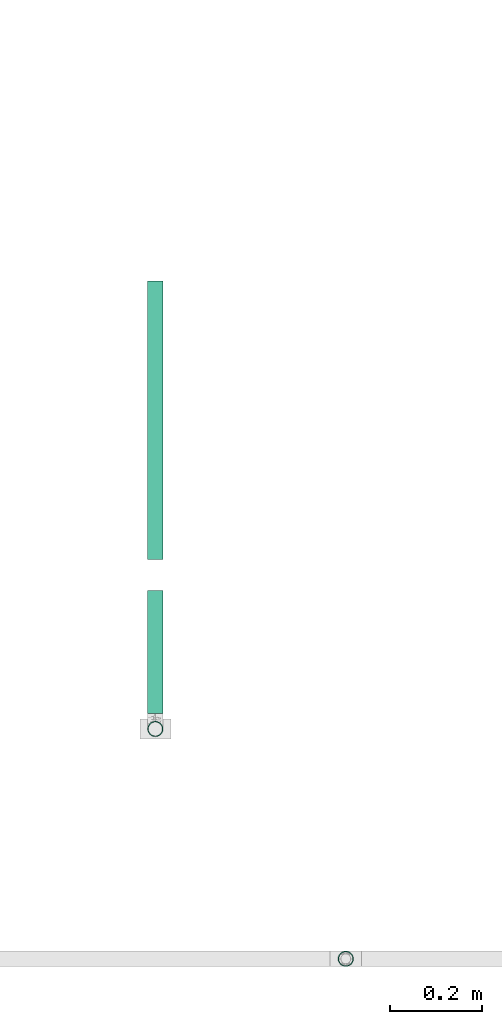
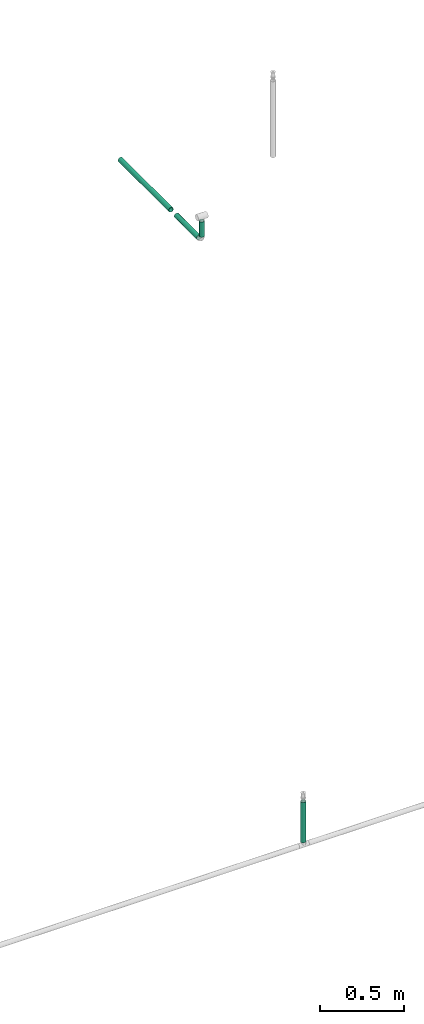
# One storey, part 8 of 63: 4 flow segments.
"""IFC2X3 building model written with IfcOpenShell, lengths in millimetres."""

from ifc_helpers import new_model, entity, si_unit, converted_unit, derived_unit, direction, frame, origin_with_axes, origin_2d_with_axis, place, context, subcontext, project, spatial, hollow_circle, extrude, source, transform, mapped, type_object, element, save


model = new_model("IFC2X3")

# Units and contexts
model_context = context("Model", 3, precision=0.01, world=frame((0.0, 4.29681676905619e-09, 0.0)), true_north=direction((4.01073788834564e-13, 1.0)))
plan_context = context("Plan", 3, precision=0.01, world=frame((0.0, 4.29681676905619e-09, 0.0)), true_north=direction((4.01073788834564e-13, 1.0)))
body_context = subcontext(model_context, "Body", "Model", "MODEL_VIEW")
ifc_project = project(units=[converted_unit("PLANEANGLEUNIT", "DEGREE", entity("IfcPositiveLengthMeasure", 0.0174532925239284), si_unit("PLANEANGLEUNIT", "RADIAN"), dimensions=[0, 0, 0, 0, 0, 0, 0]), si_unit("AREAUNIT", "SQUARE_METRE"), si_unit("LENGTHUNIT", "METRE", prefix="MILLI"), si_unit("MASSUNIT", "GRAM", prefix="KILO"), si_unit("POWERUNIT", "WATT"), si_unit("PRESSUREUNIT", "PASCAL", prefix="KILO"), si_unit("FORCEUNIT", "NEWTON", prefix="KILO"), si_unit("ELECTRICVOLTAGEUNIT", "VOLT"), si_unit("ELECTRICCURRENTUNIT", "AMPERE"), si_unit("THERMODYNAMICTEMPERATUREUNIT", "DEGREE_CELSIUS"), si_unit("TIMEUNIT", "SECOND"), si_unit("VOLUMEUNIT", "CUBIC_METRE"), derived_unit("LINEARVELOCITYUNIT", [(si_unit("LENGTHUNIT", "METRE"), 1), (si_unit("TIMEUNIT", "SECOND"), -1)]), derived_unit("VOLUMETRICFLOWRATEUNIT", [(si_unit("VOLUMEUNIT", "CUBIC_METRE"), 1), (si_unit("TIMEUNIT", "SECOND"), -1)]), derived_unit("THERMALTRANSMITTANCEUNIT", [(si_unit("POWERUNIT", "WATT"), 1), (si_unit("THERMODYNAMICTEMPERATUREUNIT", "KELVIN"), -1), (si_unit("AREAUNIT", "SQUARE_METRE"), -1)]), derived_unit("SOUNDPRESSUREUNIT", [(si_unit("PRESSUREUNIT", "PASCAL"), 1)])], contexts=[model_context, plan_context])

# Site, building, storey
site_placement = place(None, frame((0.0, -4.29681676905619e-09, 0.0), z_axis=(0.0, 0.0, 1.0), x_axis=(1.0, 0.0, 0.0)))
site = spatial("IfcSite", under=ifc_project, at=site_placement, CompositionType="ELEMENT")
building_placement = place(site_placement, frame((0.0, 4.29681676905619e-09, 0.0), z_axis=(0.0, 0.0, 1.0), x_axis=(1.0, 0.0, 0.0)))
building = spatial("IfcBuilding", under=site, at=building_placement, Name="mc-building", CompositionType="ELEMENT")
storey_placement = place(building_placement, frame((0.0, 0.0, 207370.0), z_axis=(0.0, 0.0, 1.0), x_axis=(1.0, 0.0, 0.0)))
storey = spatial("IfcBuildingStorey", under=building, at=storey_placement, Name="Nivå E", CompositionType="ELEMENT", Elevation=207370.0)

# Flow segments
pipe_segment_type = type_object("IfcPipeSegmentType", Name="Stålrør normaltykke", PredefinedType="RIGIDSEGMENT")
shared_shape_1 = source(origin_with_axes(), body_context, "Body", "SweptSolid", [
    extrude(hollow_circle(Radius=16.9, WallThickness=2.0, at=origin_2d_with_axis()), frame((0.0, 0.0, 0.0), z_axis=(1.0, 0.0, 0.0), x_axis=(0.0, 1.0, 0.0)), (0.0, 0.0, 1.0), 293.0),
])
flow_segment_1_placement = place(storey_placement, frame((722412.90183, 434695.91689, 2725.35000000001), z_axis=(0.0, 1.0, 0.0), x_axis=(0.0, 0.0, 1.0)))
element("IfcFlowSegment", 1, at=flow_segment_1_placement, inside=storey, type_object=pipe_segment_type, Name="Stålrør normaltykke", context=body_context, shape_type="MappedRepresentation", body=[
    mapped(shared_shape_1, transform((0.0, 0.0, 0.0), scale=1.0)),
])
shared_shape_2 = source(origin_with_axes(), body_context, "Body", "SweptSolid", [
    extrude(hollow_circle(Radius=16.9, WallThickness=2.0, at=origin_2d_with_axis()), frame((0.0, 0.0, 0.0), z_axis=(1.0, 0.0, 0.0), x_axis=(0.0, 1.0, 0.0)), (0.0, 0.0, 1.0), 604.4),
])
flow_segment_2_placement = place(storey_placement, frame((722000.0, 435561.79693, 6953.42494), z_axis=(0.0, 0.0, 1.0), x_axis=(0.0, 1.0, 0.0)))
element("IfcFlowSegment", 2, at=flow_segment_2_placement, inside=storey, type_object=pipe_segment_type, Name="Stålrør normaltykke", context=body_context, shape_type="MappedRepresentation", body=[
    mapped(shared_shape_2, transform((0.0, 0.0, 0.0), scale=1.0)),
])
shared_shape_3 = source(origin_with_axes(), body_context, "Body", "SweptSolid", [
    extrude(hollow_circle(Radius=16.9, WallThickness=2.0, at=origin_2d_with_axis()), frame((0.0, 0.0, 0.0), z_axis=(1.0, 0.0, 0.0), x_axis=(0.0, 1.0, 0.0)), (0.0, 0.0, 1.0), 111.0),
])
flow_segment_3_placement = place(storey_placement, frame((722000.0, 435194.37907, 7098.20000000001), z_axis=(0.0, 1.0, 0.0), x_axis=(0.0, 0.0, -1.0)))
element("IfcFlowSegment", 3, at=flow_segment_3_placement, inside=storey, type_object=pipe_segment_type, Name="Stålrør normaltykke", context=body_context, shape_type="MappedRepresentation", body=[
    mapped(shared_shape_3, transform((0.0, 0.0, 0.0), scale=1.0)),
])
shared_shape_4 = source(origin_with_axes(), body_context, "Body", "SweptSolid", [
    extrude(hollow_circle(Radius=16.9, WallThickness=2.0, at=origin_2d_with_axis()), frame((0.0, 0.0, 0.0), z_axis=(1.0, 0.0, 0.0), x_axis=(0.0, 1.0, 0.0)), (0.0, 0.0, 1.0), 266.0),
])
flow_segment_4_placement = place(storey_placement, frame((722000.0, 435228.17907, 6953.42494), z_axis=(0.0, 0.0, 1.0), x_axis=(0.0, 1.0, 0.0)))
element("IfcFlowSegment", 4, at=flow_segment_4_placement, inside=storey, type_object=pipe_segment_type, Name="Stålrør normaltykke", context=body_context, shape_type="MappedRepresentation", body=[
    mapped(shared_shape_4, transform((0.0, 0.0, 0.0), scale=1.0)),
])

save(model, "model.ifc")
